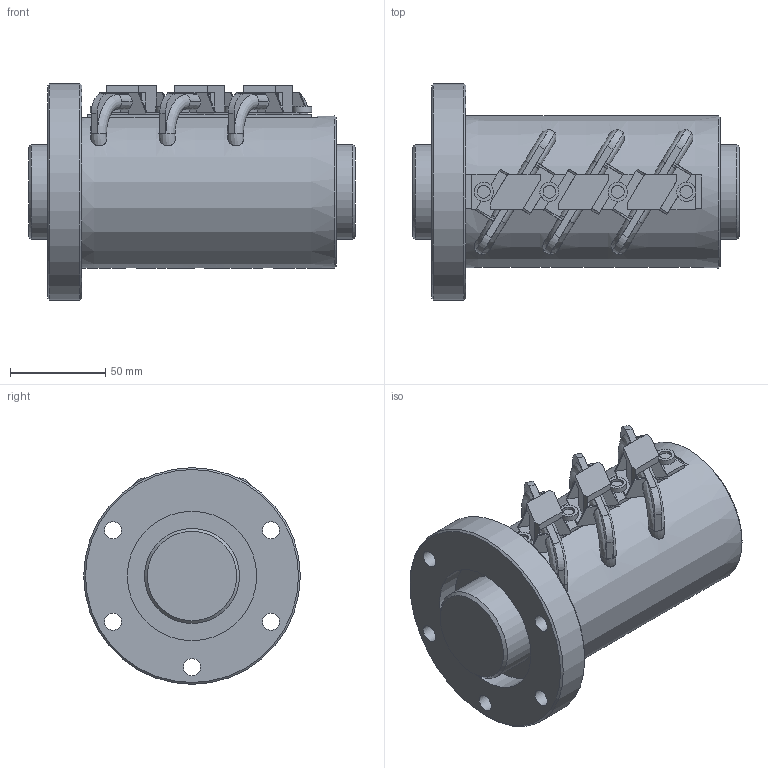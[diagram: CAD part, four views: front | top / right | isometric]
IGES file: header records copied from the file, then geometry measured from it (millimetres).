
Start section: Data from Parasolid IGES Translator 26.0.171, Copyright(c) 2006 Siemens PLM Software. All Rights Reserved.
Global section: file name: HBN5012-7.5RRG2+172LC0(0G200)_rev.igs; native system: By Siemens PLM Incorporated; preprocessor: XPlus GENERIC/IGES 26.0.171; author: Noname; organization: Noname; date: 20240704.081752; units: millimetre
Bounding box: 172 x 114 x 114 mm (x, y, z)
Surface area: 130995.3 mm2 (no closed solid volume)
Topology: 0 solids, 0 shells, 249 faces, 1471 edges, 1415 vertices
Faces by surface type: extrusion 187, revolution 62
